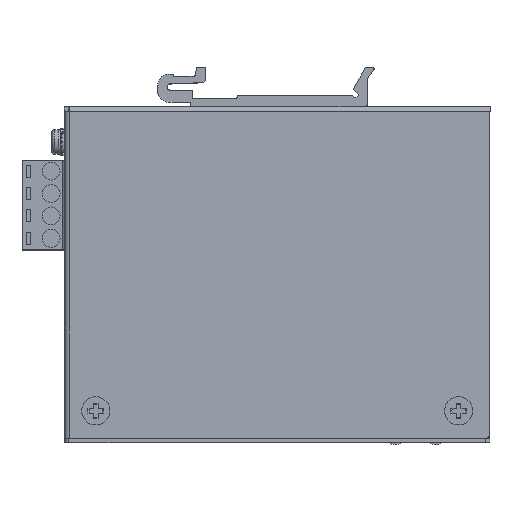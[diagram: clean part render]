
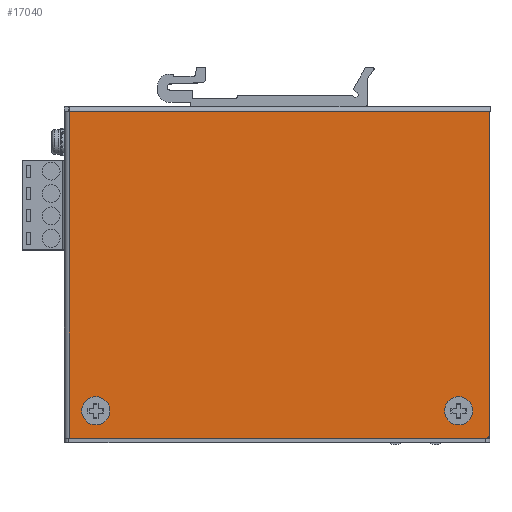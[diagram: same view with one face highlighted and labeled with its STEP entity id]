
A CAD part, top view. The second image highlights one B-rep face of the part: STEP entity #17040.
In plain terms, the highlighted planar face has unit normal (0, 0, 1).
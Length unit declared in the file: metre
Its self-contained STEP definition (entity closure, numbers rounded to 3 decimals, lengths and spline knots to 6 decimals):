
#1164=CIRCLE('',#18806,0.001);
#1165=CIRCLE('',#18807,0.00315);
#1166=CIRCLE('',#18808,0.00315);
#4451=ORIENTED_EDGE('',*,*,#7695,.T.);
#4452=ORIENTED_EDGE('',*,*,#7696,.F.);
#4453=ORIENTED_EDGE('',*,*,#7697,.F.);
#4454=ORIENTED_EDGE('',*,*,#7698,.F.);
#4455=ORIENTED_EDGE('',*,*,#7699,.F.);
#4456=ORIENTED_EDGE('',*,*,#7700,.T.);
#4457=ORIENTED_EDGE('',*,*,#7701,.T.);
#7695=EDGE_CURVE('',#9561,#9562,#1164,.T.);
#7696=EDGE_CURVE('',#9563,#9562,#11081,.T.);
#7697=EDGE_CURVE('',#9564,#9563,#11082,.T.);
#7698=EDGE_CURVE('',#9565,#9564,#11083,.T.);
#7699=EDGE_CURVE('',#9561,#9565,#11084,.T.);
#7700=EDGE_CURVE('',#9566,#9566,#1165,.T.);
#7701=EDGE_CURVE('',#9567,#9567,#1166,.T.);
#9561=VERTEX_POINT('',#30560);
#9562=VERTEX_POINT('',#30561);
#9563=VERTEX_POINT('',#30563);
#9564=VERTEX_POINT('',#30565);
#9565=VERTEX_POINT('',#30567);
#9566=VERTEX_POINT('',#30570);
#9567=VERTEX_POINT('',#30572);
#11081=LINE('',#30562,#12727);
#11082=LINE('',#30564,#12728);
#11083=LINE('',#30566,#12729);
#11084=LINE('',#30568,#12730);
#12727=VECTOR('',#22725,1.);
#12728=VECTOR('',#22726,1.);
#12729=VECTOR('',#22727,1.);
#12730=VECTOR('',#22728,1.);
#14177=EDGE_LOOP('',(#4451,#4452,#4453,#4454,#4455));
#14178=EDGE_LOOP('',(#4456));
#14179=EDGE_LOOP('',(#4457));
#15379=FACE_BOUND('',#14177,.T.);
#15380=FACE_BOUND('',#14178,.T.);
#15381=FACE_BOUND('',#14179,.T.);
#16136=PLANE('',#18805);
#17040=ADVANCED_FACE('',(#15379,#15380,#15381),#16136,.T.);
#18805=AXIS2_PLACEMENT_3D('',#30558,#22721,#22722);
#18806=AXIS2_PLACEMENT_3D('',#30559,#22723,#22724);
#18807=AXIS2_PLACEMENT_3D('',#30569,#22729,#22730);
#18808=AXIS2_PLACEMENT_3D('',#30571,#22731,#22732);
#22721=DIRECTION('',(0.,0.,1.));
#22722=DIRECTION('',(1.,0.,0.));
#22723=DIRECTION('',(0.,0.,1.));
#22724=DIRECTION('',(0.,-1.,0.));
#22725=DIRECTION('',(0.,-1.,0.));
#22726=DIRECTION('',(1.,0.,0.));
#22727=DIRECTION('',(0.,1.,0.));
#22728=DIRECTION('',(-1.,0.,0.));
#22729=DIRECTION('',(0.,0.,-1.));
#22730=DIRECTION('',(0.,-1.,0.));
#22731=DIRECTION('',(0.,0.,-1.));
#22732=DIRECTION('',(0.,-1.,0.));
#30558=CARTESIAN_POINT('',(0.,0.,0.));
#30559=CARTESIAN_POINT('',(0.0465,-0.036,0.));
#30560=CARTESIAN_POINT('',(0.0465,-0.037,0.));
#30561=CARTESIAN_POINT('',(0.0475,-0.036,0.));
#30562=CARTESIAN_POINT('',(0.0475,0.0359,0.));
#30563=CARTESIAN_POINT('',(0.0475,0.0359,0.));
#30564=CARTESIAN_POINT('',(-0.0464,0.0359,0.));
#30565=CARTESIAN_POINT('',(-0.0464,0.0359,0.));
#30566=CARTESIAN_POINT('',(-0.0464,-0.037,0.));
#30567=CARTESIAN_POINT('',(-0.0464,-0.037,0.));
#30568=CARTESIAN_POINT('',(0.0465,-0.037,0.));
#30569=CARTESIAN_POINT('',(-0.0405,-0.0309,0.));
#30570=CARTESIAN_POINT('',(-0.0405,-0.03405,0.));
#30571=CARTESIAN_POINT('',(0.0405,-0.0309,0.));
#30572=CARTESIAN_POINT('',(0.0405,-0.03405,0.));
